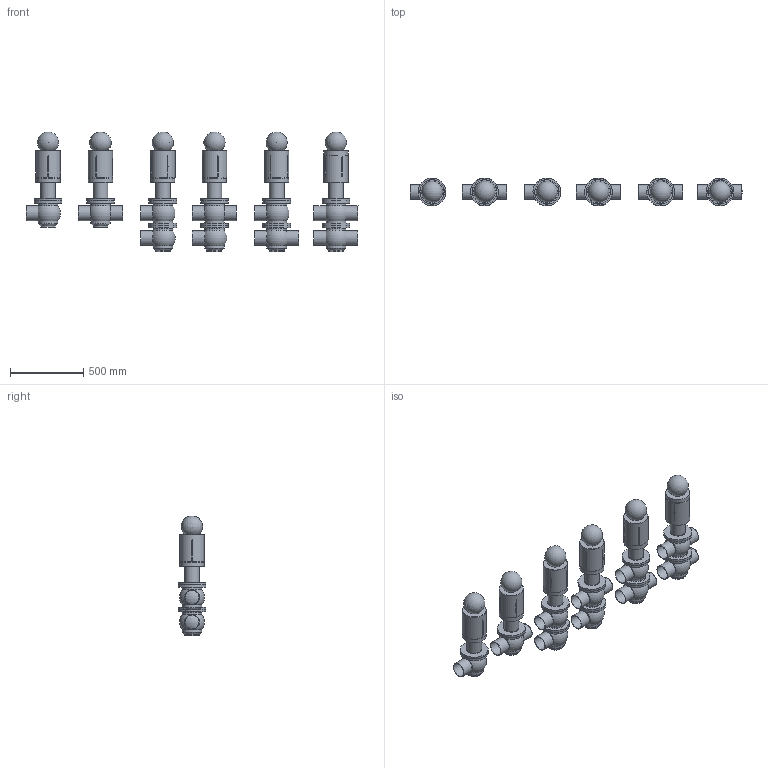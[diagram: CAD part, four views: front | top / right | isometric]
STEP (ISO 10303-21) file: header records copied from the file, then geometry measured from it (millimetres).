
FILE_DESCRIPTION(/* description */ (''),/* implementation_level */ '2;1');
FILE_NAME(/* name */ 'C:\Users\marz-m\Desktop\PDF\BBZQ 3D STEP\BBZQ-DN100-CIL.156.stp',/* time_stamp */ '2018-04-13T15:28:56+02:00',/* author */ ('marz-m'),/* organization */ (''),/* preprocessor_version */ 'ST-DEVELOPER v17',/* originating_system */ 'Autodesk Inventor 2018',/* authorisation */ '');
FILE_SCHEMA (('AUTOMOTIVE_DESIGN { 1 0 10303 214 3 1 1 }'));
Length unit declared in the file: millimetre
Products named in the file (8): BBZQ-DN100-CIL.156; assemblaggio dn100 per cil 108-156; CIL156; SAGOMA-GIOTTO-; COR-INF-L-BBZQ-DN100X3-SALD; CORPO-SUP-INF-BBZQ-L-DN1016X3-SALD; CORPO-SUP-BBZQ-T-DN1016X3-SALD; COR-INF-T-BBZQ-DN100X3-SALD
Assembly tree (28 placements, depth 2):
  BBZQ-DN100-CIL.156
    assemblaggio dn100 per cil 108-156  x6
    COR-INF-L-BBZQ-DN100X3-SALD  x3
    COR-INF-T-BBZQ-DN100X3-SALD  x3
    CORPO-SUP-INF-BBZQ-L-DN1016X3-SALD  x2
    CORPO-SUP-BBZQ-T-DN1016X3-SALD  x2
    CIL156  x6
    SAGOMA-GIOTTO-  x6
Bounding box: 2260.92 x 189 x 816.47 mm (x, y, z)
Volume: 75039634.6 mm3; surface area: 4410280.6 mm2
Topology: 28 solids, 28 shells, 428 faces, 1114 edges, 824 vertices
Faces by surface type: cylinder 130, plane 115, cone 78, torus 50, sphere 31, bspline 24
Full cylindrical faces by diameter (mm): 20 x12, 25.6 x6, 76 x6, 77 x6, 95.6 x21, 100 x6, 101.6 x21, 133 x20, 164.5 x6, 166 x6, 189 x20
Entity records: 4791 total; most frequent: CARTESIAN_POINT 1368, DIRECTION 752, ORIENTED_EDGE 590, AXIS2_PLACEMENT_3D 353, EDGE_CURVE 295, VERTEX_POINT 221, CIRCLE 207, EDGE_LOOP 142
